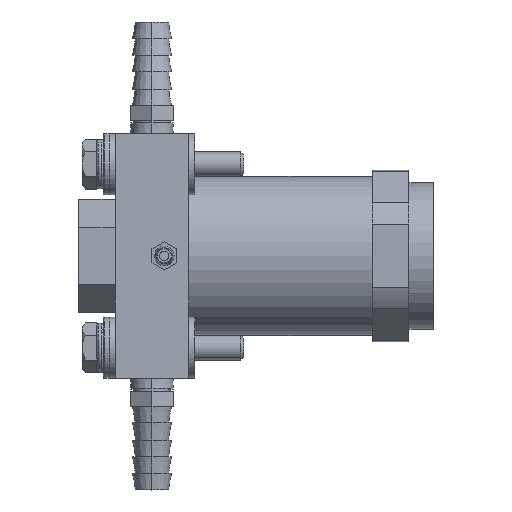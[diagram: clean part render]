
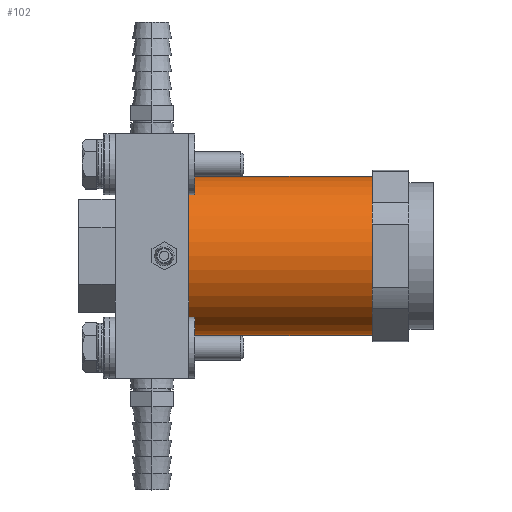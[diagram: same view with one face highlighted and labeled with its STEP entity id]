
A CAD part, top view. The second image highlights one B-rep face of the part: STEP entity #102.
In plain terms, the highlighted cylindrical face has radius 20.637 mm (diameter 41.275 mm), a partial arc.
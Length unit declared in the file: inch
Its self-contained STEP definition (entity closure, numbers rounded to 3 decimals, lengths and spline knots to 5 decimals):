
#32=CARTESIAN_POINT('',(-0.625,0.,0.));
#33=DIRECTION('',(1.,0.,0.));
#34=DIRECTION('',(0.,1.,0.));
#35=AXIS2_PLACEMENT_3D('',#32,#33,#34);
#37=DIRECTION('',(1.,0.,0.));
#38=VECTOR('',#37,1.875);
#39=CARTESIAN_POINT('',(-2.5,-0.8125,0.));
#40=LINE('',#39,#38);
#41=DIRECTION('',(1.,0.,0.));
#42=VECTOR('',#41,1.875);
#43=CARTESIAN_POINT('',(-2.5,0.8125,0.));
#44=LINE('',#43,#42);
#45=CARTESIAN_POINT('',(-2.5,0.,0.));
#46=DIRECTION('',(-1.,0.,0.));
#47=DIRECTION('',(0.,-1.,0.));
#48=AXIS2_PLACEMENT_3D('',#45,#46,#47);
#55=CARTESIAN_POINT('',(-2.5,0.8125,0.));
#56=CARTESIAN_POINT('',(-0.625,0.8125,0.));
#57=VERTEX_POINT('',#55);
#58=VERTEX_POINT('',#56);
#59=CARTESIAN_POINT('',(-2.5,-0.8125,0.));
#60=CARTESIAN_POINT('',(-0.625,-0.8125,0.));
#61=VERTEX_POINT('',#59);
#62=VERTEX_POINT('',#60);
#90=CARTESIAN_POINT('',(-2.5,0.,0.));
#91=DIRECTION('',(1.,0.,0.));
#92=DIRECTION('',(0.,-1.,0.));
#93=AXIS2_PLACEMENT_3D('',#90,#91,#92);
#94=CYLINDRICAL_SURFACE('',#93,0.8125);
#95=ORIENTED_EDGE('',*,*,#85,.T.);
#96=ORIENTED_EDGE('',*,*,#74,.F.);
#98=ORIENTED_EDGE('',*,*,#97,.T.);
#99=ORIENTED_EDGE('',*,*,#70,.T.);
#100=EDGE_LOOP('',(#95,#96,#98,#99));
#101=FACE_OUTER_BOUND('',#100,.F.);
#36=CIRCLE('',#35,0.8125);
#49=CIRCLE('',#48,0.8125);
#70=EDGE_CURVE('',#57,#58,#44,.T.);
#74=EDGE_CURVE('',#61,#62,#40,.T.);
#85=EDGE_CURVE('',#58,#62,#36,.T.);
#97=EDGE_CURVE('',#61,#57,#49,.T.);
#102=ADVANCED_FACE('',(#101),#94,.T.);
